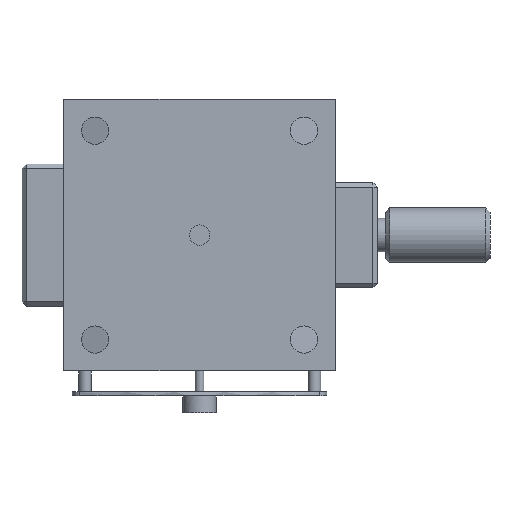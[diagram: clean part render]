
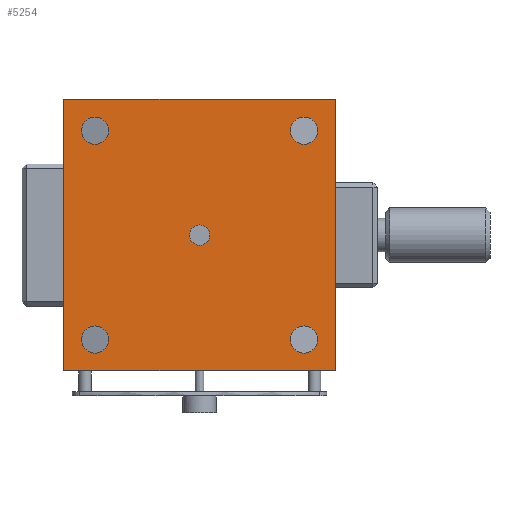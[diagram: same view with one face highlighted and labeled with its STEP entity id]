
A CAD part, front view. The second image highlights one B-rep face of the part: STEP entity #5254.
In plain terms, the highlighted planar face has unit normal (0, -1, 0).
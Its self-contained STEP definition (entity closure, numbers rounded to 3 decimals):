
#281 = CARTESIAN_POINT ( 'NONE',  ( -25., -75., 7.5 ) ) ;
#309 = VERTEX_POINT ( 'NONE', #11108 ) ;
#341 = AXIS2_PLACEMENT_3D ( 'NONE', #8613, #817, #11856 ) ;
#420 = ORIENTED_EDGE ( 'NONE', *, *, #11770, .F. ) ;
#632 = DIRECTION ( 'NONE',  ( 1., 0., 0. ) ) ;
#713 = VERTEX_POINT ( 'NONE', #5381 ) ;
#817 = DIRECTION ( 'NONE',  ( 0., -1., 0. ) ) ;
#847 = VERTEX_POINT ( 'NONE', #7776 ) ;
#917 = AXIS2_PLACEMENT_3D ( 'NONE', #3072, #5294, #11952 ) ;
#987 = CARTESIAN_POINT ( 'NONE',  ( -25., -75., 60.75 ) ) ;
#1016 = VERTEX_POINT ( 'NONE', #987 ) ;
#1111 = AXIS2_PLACEMENT_3D ( 'NONE', #281, #8868, #12204 ) ;
#1455 = AXIS2_PLACEMENT_3D ( 'NONE', #8724, #8774, #5561 ) ;
#1506 = DIRECTION ( 'NONE',  ( 0., -1., 0. ) ) ;
#1602 = DIRECTION ( 'NONE',  ( 0., 0., -1. ) ) ;
#1863 = CARTESIAN_POINT ( 'NONE',  ( 25., -75., 4.25 ) ) ;
#2208 = DIRECTION ( 'NONE',  ( -1., 0., 0. ) ) ;
#2293 = CARTESIAN_POINT ( 'NONE',  ( 0., -75., 30.075 ) ) ;
#2320 = DIRECTION ( 'NONE',  ( 0., 0., 1. ) ) ;
#2338 = CARTESIAN_POINT ( 'NONE',  ( -32.5, -75., 0. ) ) ;
#2372 = AXIS2_PLACEMENT_3D ( 'NONE', #12101, #3172, #6687 ) ;
#2422 = EDGE_CURVE ( 'NONE', #309, #9771, #3324, .T. ) ;
#2462 = CIRCLE ( 'NONE', #13657, 3.25 ) ;
#2509 = FACE_BOUND ( 'NONE', #12748, .T. ) ;
#2608 = CARTESIAN_POINT ( 'NONE',  ( -25., -75., 7.5 ) ) ;
#2609 = VERTEX_POINT ( 'NONE', #13177 ) ;
#2668 = DIRECTION ( 'NONE',  ( 0., -1., 0. ) ) ;
#2964 = CARTESIAN_POINT ( 'NONE',  ( 32.5, -75., 65. ) ) ;
#2989 = EDGE_LOOP ( 'NONE', ( #8903, #6683, #6516, #4998 ) ) ;
#3072 = CARTESIAN_POINT ( 'NONE',  ( 25., -75., 7.5 ) ) ;
#3134 = CIRCLE ( 'NONE', #341, 3.25 ) ;
#3172 = DIRECTION ( 'NONE',  ( 0., -1., 0. ) ) ;
#3211 = EDGE_CURVE ( 'NONE', #1016, #2609, #7988, .T. ) ;
#3275 = EDGE_CURVE ( 'NONE', #6874, #13568, #3311, .T. ) ;
#3311 = LINE ( 'NONE', #5694, #14027 ) ;
#3324 = CIRCLE ( 'NONE', #10295, 3.25 ) ;
#3344 = VECTOR ( 'NONE', #2320, 1000. ) ;
#3616 = CIRCLE ( 'NONE', #8572, 3.25 ) ;
#3680 = LINE ( 'NONE', #8923, #3344 ) ;
#3936 = DIRECTION ( 'NONE',  ( 0., -1., 0. ) ) ;
#4025 = ORIENTED_EDGE ( 'NONE', *, *, #7800, .F. ) ;
#4143 = VERTEX_POINT ( 'NONE', #1863 ) ;
#4382 = FACE_BOUND ( 'NONE', #7788, .T. ) ;
#4397 = ORIENTED_EDGE ( 'NONE', *, *, #10477, .F. ) ;
#4422 = VERTEX_POINT ( 'NONE', #8059 ) ;
#4653 = AXIS2_PLACEMENT_3D ( 'NONE', #5610, #8878, #13316 ) ;
#4775 = VERTEX_POINT ( 'NONE', #2293 ) ;
#4998 = ORIENTED_EDGE ( 'NONE', *, *, #3275, .F. ) ;
#5064 = ORIENTED_EDGE ( 'NONE', *, *, #9516, .F. ) ;
#5188 = DIRECTION ( 'NONE',  ( 0., 0., -1. ) ) ;
#5254 = ADVANCED_FACE ( 'NONE', ( #8371, #14254, #10272, #2509, #13902, #4382 ), #10999, .F. ) ;
#5294 = DIRECTION ( 'NONE',  ( 0., -1., 0. ) ) ;
#5378 = VERTEX_POINT ( 'NONE', #12012 ) ;
#5381 = CARTESIAN_POINT ( 'NONE',  ( 25., -75., 10.75 ) ) ;
#5508 = LINE ( 'NONE', #2964, #7051 ) ;
#5561 = DIRECTION ( 'NONE',  ( 0., 0., 1. ) ) ;
#5610 = CARTESIAN_POINT ( 'NONE',  ( 25., -75., 7.5 ) ) ;
#5694 = CARTESIAN_POINT ( 'NONE',  ( -32.5, -75., 0. ) ) ;
#5772 = CARTESIAN_POINT ( 'NONE',  ( 32.5, -75., 0. ) ) ;
#5909 = EDGE_CURVE ( 'NONE', #13568, #9938, #3680, .T. ) ;
#5990 = ORIENTED_EDGE ( 'NONE', *, *, #7473, .F. ) ;
#6245 = EDGE_CURVE ( 'NONE', #4775, #5378, #13360, .T. ) ;
#6516 = ORIENTED_EDGE ( 'NONE', *, *, #5909, .F. ) ;
#6683 = ORIENTED_EDGE ( 'NONE', *, *, #7015, .F. ) ;
#6687 = DIRECTION ( 'NONE',  ( 0., 0., -1. ) ) ;
#6832 = CARTESIAN_POINT ( 'NONE',  ( -32.5, -75., 65. ) ) ;
#6874 = VERTEX_POINT ( 'NONE', #5772 ) ;
#6991 = DIRECTION ( 'NONE',  ( 0., 0., -1. ) ) ;
#7015 = EDGE_CURVE ( 'NONE', #9938, #10651, #13160, .T. ) ;
#7051 = VECTOR ( 'NONE', #5188, 1000. ) ;
#7067 = AXIS2_PLACEMENT_3D ( 'NONE', #8675, #8765, #8812 ) ;
#7473 = EDGE_CURVE ( 'NONE', #2609, #1016, #2462, .T. ) ;
#7756 = AXIS2_PLACEMENT_3D ( 'NONE', #12597, #1506, #1602 ) ;
#7776 = CARTESIAN_POINT ( 'NONE',  ( 25., -75., 54.25 ) ) ;
#7788 = EDGE_LOOP ( 'NONE', ( #5990, #12206 ) ) ;
#7800 = EDGE_CURVE ( 'NONE', #4422, #847, #3134, .T. ) ;
#7988 = CIRCLE ( 'NONE', #7067, 3.25 ) ;
#8036 = EDGE_LOOP ( 'NONE', ( #13309, #5064 ) ) ;
#8059 = CARTESIAN_POINT ( 'NONE',  ( 25., -75., 60.75 ) ) ;
#8371 = FACE_OUTER_BOUND ( 'NONE', #2989, .T. ) ;
#8572 = AXIS2_PLACEMENT_3D ( 'NONE', #11295, #3936, #13556 ) ;
#8613 = CARTESIAN_POINT ( 'NONE',  ( 25., -75., 57.5 ) ) ;
#8675 = CARTESIAN_POINT ( 'NONE',  ( -25., -75., 57.5 ) ) ;
#8724 = CARTESIAN_POINT ( 'NONE',  ( -32.5, -75., 65. ) ) ;
#8765 = DIRECTION ( 'NONE',  ( 0., -1., 0. ) ) ;
#8774 = DIRECTION ( 'NONE',  ( 0., 1., 0. ) ) ;
#8812 = DIRECTION ( 'NONE',  ( 0., 0., -1. ) ) ;
#8868 = DIRECTION ( 'NONE',  ( 0., -1., 0. ) ) ;
#8878 = DIRECTION ( 'NONE',  ( 0., -1., 0. ) ) ;
#8903 = ORIENTED_EDGE ( 'NONE', *, *, #10214, .F. ) ;
#8923 = CARTESIAN_POINT ( 'NONE',  ( -32.5, -75., 65. ) ) ;
#8983 = EDGE_LOOP ( 'NONE', ( #11628, #4025 ) ) ;
#9112 = DIRECTION ( 'NONE',  ( 0., -1., 0. ) ) ;
#9186 = EDGE_CURVE ( 'NONE', #847, #4422, #3616, .T. ) ;
#9516 = EDGE_CURVE ( 'NONE', #9771, #309, #10003, .T. ) ;
#9657 = CARTESIAN_POINT ( 'NONE',  ( -32.5, -75., 65. ) ) ;
#9771 = VERTEX_POINT ( 'NONE', #10749 ) ;
#9819 = EDGE_CURVE ( 'NONE', #713, #4143, #13791, .T. ) ;
#9938 = VERTEX_POINT ( 'NONE', #6832 ) ;
#10003 = CIRCLE ( 'NONE', #1111, 3.25 ) ;
#10140 = DIRECTION ( 'NONE',  ( 0., 0., -1. ) ) ;
#10214 = EDGE_CURVE ( 'NONE', #10651, #6874, #5508, .T. ) ;
#10272 = FACE_BOUND ( 'NONE', #8983, .T. ) ;
#10295 = AXIS2_PLACEMENT_3D ( 'NONE', #2608, #2668, #10140 ) ;
#10477 = EDGE_CURVE ( 'NONE', #5378, #4775, #13963, .T. ) ;
#10651 = VERTEX_POINT ( 'NONE', #14093 ) ;
#10719 = ORIENTED_EDGE ( 'NONE', *, *, #9819, .F. ) ;
#10749 = CARTESIAN_POINT ( 'NONE',  ( -25., -75., 10.75 ) ) ;
#10981 = ORIENTED_EDGE ( 'NONE', *, *, #6245, .F. ) ;
#10999 = PLANE ( 'NONE',  #1455 ) ;
#11108 = CARTESIAN_POINT ( 'NONE',  ( -25., -75., 4.25 ) ) ;
#11277 = VECTOR ( 'NONE', #632, 1000. ) ;
#11295 = CARTESIAN_POINT ( 'NONE',  ( 25., -75., 57.5 ) ) ;
#11628 = ORIENTED_EDGE ( 'NONE', *, *, #9186, .F. ) ;
#11770 = EDGE_CURVE ( 'NONE', #4143, #713, #13781, .T. ) ;
#11856 = DIRECTION ( 'NONE',  ( 0., 0., -1. ) ) ;
#11952 = DIRECTION ( 'NONE',  ( 0., 0., -1. ) ) ;
#12012 = CARTESIAN_POINT ( 'NONE',  ( 0., -75., 34.925 ) ) ;
#12101 = CARTESIAN_POINT ( 'NONE',  ( 0., -75., 32.5 ) ) ;
#12204 = DIRECTION ( 'NONE',  ( 0., 0., -1. ) ) ;
#12206 = ORIENTED_EDGE ( 'NONE', *, *, #3211, .F. ) ;
#12395 = EDGE_LOOP ( 'NONE', ( #10981, #4397 ) ) ;
#12588 = CARTESIAN_POINT ( 'NONE',  ( -25., -75., 57.5 ) ) ;
#12597 = CARTESIAN_POINT ( 'NONE',  ( 0., -75., 32.5 ) ) ;
#12748 = EDGE_LOOP ( 'NONE', ( #420, #10719 ) ) ;
#13160 = LINE ( 'NONE', #9657, #11277 ) ;
#13177 = CARTESIAN_POINT ( 'NONE',  ( -25., -75., 54.25 ) ) ;
#13309 = ORIENTED_EDGE ( 'NONE', *, *, #2422, .F. ) ;
#13316 = DIRECTION ( 'NONE',  ( 0., 0., -1. ) ) ;
#13360 = CIRCLE ( 'NONE', #2372, 2.425 ) ;
#13556 = DIRECTION ( 'NONE',  ( 0., 0., -1. ) ) ;
#13568 = VERTEX_POINT ( 'NONE', #2338 ) ;
#13657 = AXIS2_PLACEMENT_3D ( 'NONE', #12588, #9112, #6991 ) ;
#13781 = CIRCLE ( 'NONE', #4653, 3.25 ) ;
#13791 = CIRCLE ( 'NONE', #917, 3.25 ) ;
#13902 = FACE_BOUND ( 'NONE', #8036, .T. ) ;
#13963 = CIRCLE ( 'NONE', #7756, 2.425 ) ;
#14027 = VECTOR ( 'NONE', #2208, 1000. ) ;
#14093 = CARTESIAN_POINT ( 'NONE',  ( 32.5, -75., 65. ) ) ;
#14254 = FACE_BOUND ( 'NONE', #12395, .T. ) ;
